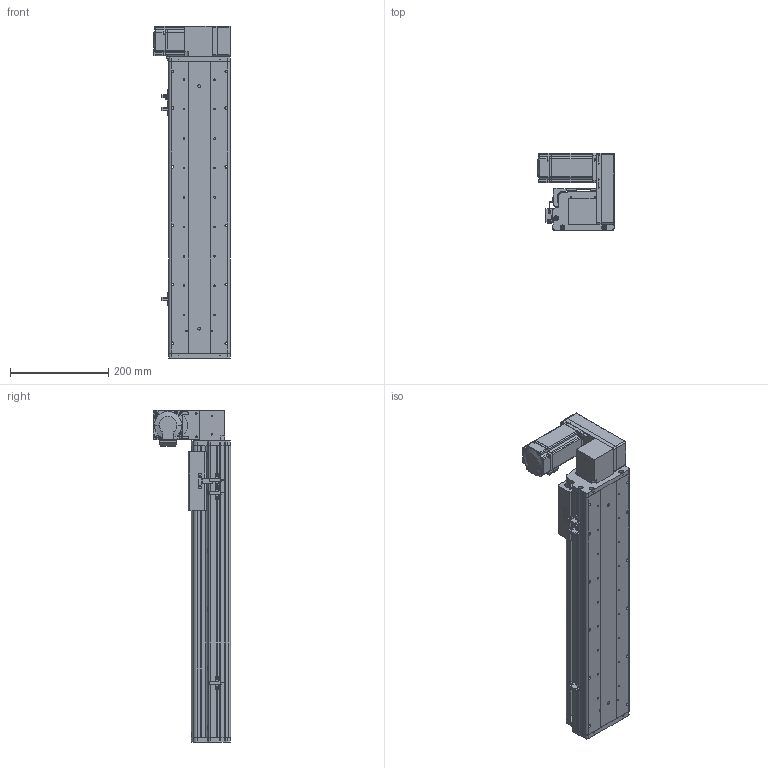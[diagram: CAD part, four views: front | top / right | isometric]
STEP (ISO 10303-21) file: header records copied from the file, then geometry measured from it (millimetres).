
FILE_DESCRIPTION (( 'STEP AP214' ), '1' );
FILE_NAME ('KSD125B-S400-MLU-CM.STEP', '2017-10-21T03:13:59', ( '微软用户' ), ( '微软中国' ), 'SwSTEP 2.0', 'SolidWorks 2014', '' );
FILE_SCHEMA (( 'AUTOMOTIVE_DESIGN' ));
Length unit declared in the file: millimetre
Products named in the file (17): 100宽马达安装板连板上下折丝杆同步带; 悵誘欶奻狟殏; HTPA30S3M150_A_H6_a佪裝蚚; HTPA30S3M150_A_H6_a萇儂蚚; MHMD042G1CA_2_03; 100宽马达安装板同步带左; KSD125模组400行程同步带-防尘盖; 125模组400行程同步带-底板; KSD125模组同步带-防撞垫2; 覜茼え68遵圉猾敕; U倰嫖萇假蚾璃; U倰嫖萇EEㄜSX672; KSD125模组同步带-防撞垫1; 前端板-125宽模组同步带; 125模组同步带-尾端板1; KSD125模组同步带-滑动座1; KSD125B-S400-MLU-CM
Assembly tree (20 placements, depth 2):
  KSD125B-S400-MLU-CM
    KSD125模组同步带-滑动座1
    125模组同步带-尾端板1
    前端板-125宽模组同步带
    KSD125模组同步带-防撞垫1
    U倰嫖萇EEㄜSX672  x3
    U倰嫖萇假蚾璃  x3
    覜茼え68遵圉猾敕
    KSD125模组同步带-防撞垫2
    125模组400行程同步带-底板
    KSD125模组400行程同步带-防尘盖
    100宽马达安装板同步带左
    MHMD042G1CA_2_03
    HTPA30S3M150_A_H6_a萇儂蚚
    HTPA30S3M150_A_H6_a佪裝蚚
    悵誘欶奻狟殏
    100宽马达安装板连板上下折丝杆同步带
Bounding box: 155 x 157.5 x 677 mm (x, y, z)
Volume: 2322495.4 mm3; surface area: 816738.1 mm2
Topology: 19 solids, 22 shells, 2231 faces, 6457 edges, 4266 vertices
Faces by surface type: cylinder 1384, plane 720, cone 105, bspline 22
Entity records: 78959 total; most frequent: CARTESIAN_POINT 15639, DIRECTION 12286, ORIENTED_EDGE 11434, EDGE_CURVE 5795, AXIS2_PLACEMENT_3D 4737, VERTEX_POINT 3858, LINE 2812, VECTOR 2812
